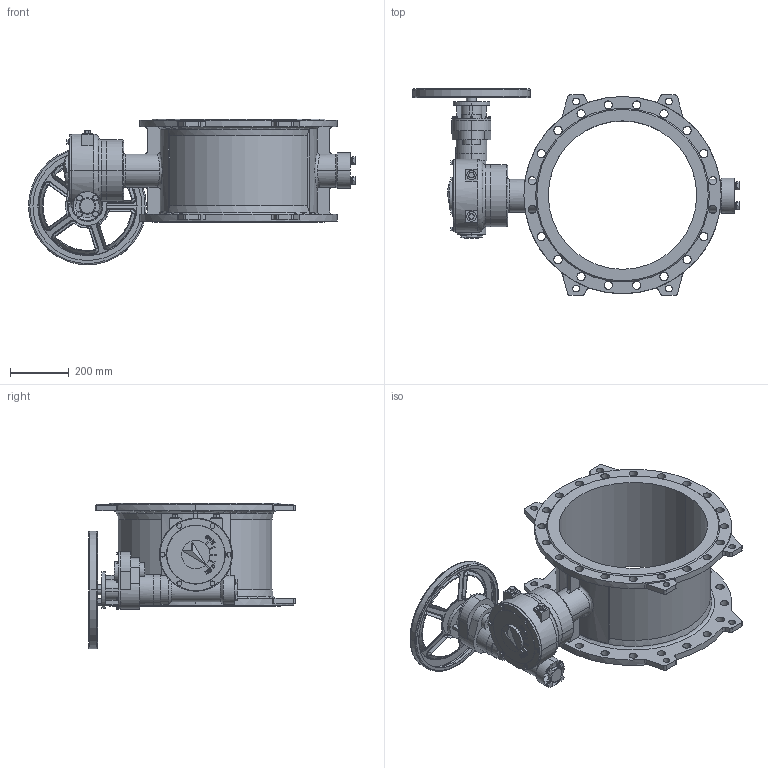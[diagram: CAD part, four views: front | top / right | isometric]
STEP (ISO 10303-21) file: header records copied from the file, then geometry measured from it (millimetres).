
FILE_DESCRIPTION (( 'STEP AP203' ), '1' );
FILE_NAME ('DN500 PN10.STEP', '2014-09-30T02:10:56', ( '微软用户' ), ( 'Sky123.Org' ), 'SwSTEP 2.0', 'SolidWorks 2012', '' );
FILE_SCHEMA (( 'CONFIG_CONTROL_DESIGN' ));
Length unit declared in the file: millimetre
Products named in the file (1): DN500 PN10
Bounding box: 1110.1 x 701.75 x 495 mm (x, y, z)
Volume: 27293870.1 mm3; surface area: 2781959.1 mm2
Topology: 5 solids, 5 shells, 1088 faces, 2735 edges, 1755 vertices
Faces by surface type: plane 493, cylinder 318, bspline 209, cone 35, torus 33
Entity records: 54578 total; most frequent: CARTESIAN_POINT 29138, ORIENTED_EDGE 5470, DIRECTION 4863, EDGE_CURVE 2735, VERTEX_POINT 1755, AXIS2_PLACEMENT_3D 1754, VECTOR 1355, LINE 1355
